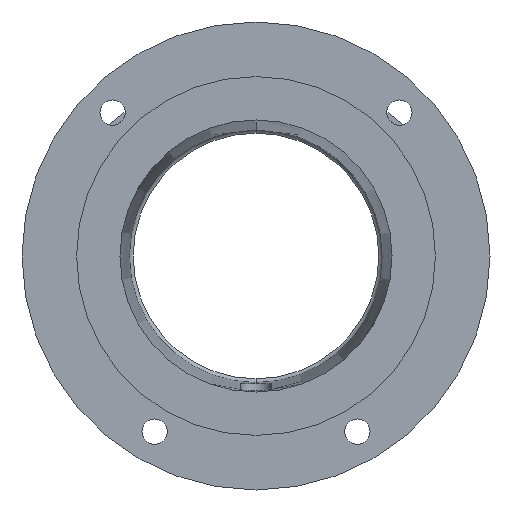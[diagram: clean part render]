
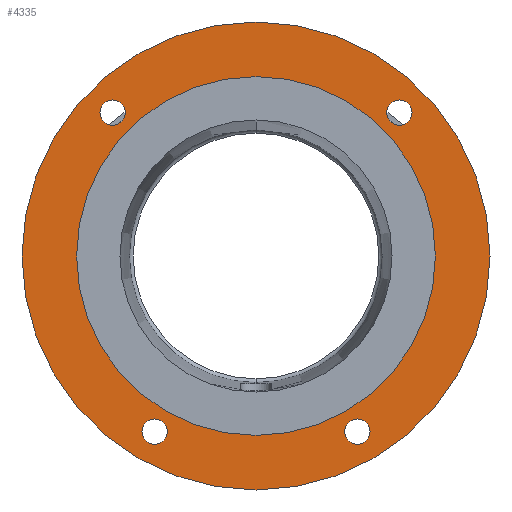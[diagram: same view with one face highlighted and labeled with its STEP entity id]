
A CAD part, front view. The second image highlights one B-rep face of the part: STEP entity #4335.
In plain terms, the highlighted planar face has unit normal (0, -1, 0).
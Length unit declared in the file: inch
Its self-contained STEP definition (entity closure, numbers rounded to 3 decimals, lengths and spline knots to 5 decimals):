
#64 = VERTEX_POINT ( 'NONE', #2327 ) ;
#112 = EDGE_LOOP ( 'NONE', ( #5559, #5375 ) ) ;
#201 = DIRECTION ( 'NONE',  ( 0., 0., -1. ) ) ;
#283 = CIRCLE ( 'NONE', #5240, 0.20312 ) ;
#293 = CARTESIAN_POINT ( 'NONE',  ( 1.625, 0., -2.81458 ) ) ;
#323 = DIRECTION ( 'NONE',  ( 0., 0., -1. ) ) ;
#339 = EDGE_LOOP ( 'NONE', ( #3786, #2260 ) ) ;
#596 = DIRECTION ( 'NONE',  ( 0., -1., 0. ) ) ;
#614 = DIRECTION ( 'NONE',  ( 0., 1., 0. ) ) ;
#680 = CARTESIAN_POINT ( 'NONE',  ( 1.625, 0., -2.61146 ) ) ;
#713 = CIRCLE ( 'NONE', #5966, 0.20313 ) ;
#859 = VERTEX_POINT ( 'NONE', #3801 ) ;
#911 = CIRCLE ( 'NONE', #4905, 0.20312 ) ;
#948 = FACE_BOUND ( 'NONE', #4601, .T. ) ;
#991 = DIRECTION ( 'NONE',  ( 0., -1., 0. ) ) ;
#1044 = AXIS2_PLACEMENT_3D ( 'NONE', #1739, #1344, #1766 ) ;
#1150 = CIRCLE ( 'NONE', #5967, 0.20312 ) ;
#1149 = CIRCLE ( 'NONE', #5656, 3.75 ) ;
#1165 = CARTESIAN_POINT ( 'NONE',  ( 0., 0., 2.875 ) ) ;
#1180 = ORIENTED_EDGE ( 'NONE', *, *, #2501, .F. ) ;
#1237 = CARTESIAN_POINT ( 'NONE',  ( -2.2981, 0., 2.50122 ) ) ;
#1344 = DIRECTION ( 'NONE',  ( 0., -1., 0. ) ) ;
#1487 = DIRECTION ( 'NONE',  ( 0., -1., 0. ) ) ;
#1551 = CARTESIAN_POINT ( 'NONE',  ( -2.19153, 0., 0. ) ) ;
#1700 = VERTEX_POINT ( 'NONE', #2333 ) ;
#1729 = CARTESIAN_POINT ( 'NONE',  ( 2.2981, 0., 2.2981 ) ) ;
#1739 = CARTESIAN_POINT ( 'NONE',  ( -1.625, 0., -2.81458 ) ) ;
#1766 = DIRECTION ( 'NONE',  ( 0., 0., -1. ) ) ;
#1801 = ORIENTED_EDGE ( 'NONE', *, *, #2074, .F. ) ;
#1928 = CARTESIAN_POINT ( 'NONE',  ( -2.2981, 0., 2.09497 ) ) ;
#1953 = ORIENTED_EDGE ( 'NONE', *, *, #4296, .F. ) ;
#1964 = CARTESIAN_POINT ( 'NONE',  ( -2.2981, 0., 2.2981 ) ) ;
#1999 = CARTESIAN_POINT ( 'NONE',  ( 0., 0., 0. ) ) ;
#2074 = EDGE_CURVE ( 'NONE', #4311, #64, #5094, .T. ) ;
#2105 = DIRECTION ( 'NONE',  ( 0., -1., 0. ) ) ;
#2110 = EDGE_CURVE ( 'NONE', #5845, #4874, #1150, .T. ) ;
#2140 = EDGE_CURVE ( 'NONE', #2693, #5842, #713, .T. ) ;
#2170 = EDGE_CURVE ( 'NONE', #4808, #5216, #4248, .T. ) ;
#2181 = ORIENTED_EDGE ( 'NONE', *, *, #2522, .T. ) ;
#2223 = DIRECTION ( 'NONE',  ( 0., 0., -1. ) ) ;
#2255 = CARTESIAN_POINT ( 'NONE',  ( 1.625, 0., -3.01771 ) ) ;
#2260 = ORIENTED_EDGE ( 'NONE', *, *, #2110, .F. ) ;
#2319 = EDGE_LOOP ( 'NONE', ( #1953, #1180 ) ) ;
#2327 = CARTESIAN_POINT ( 'NONE',  ( -1.625, 0., -3.01771 ) ) ;
#2333 = CARTESIAN_POINT ( 'NONE',  ( 0., 0., -2.875 ) ) ;
#2408 = DIRECTION ( 'NONE',  ( 0., 0., -1. ) ) ;
#2459 = DIRECTION ( 'NONE',  ( 0., 0., -1. ) ) ;
#2493 = DIRECTION ( 'NONE',  ( 0., 0., -1. ) ) ;
#2501 = EDGE_CURVE ( 'NONE', #3750, #1700, #4951, .T. ) ;
#2522 = EDGE_CURVE ( 'NONE', #859, #4605, #1149, .T. ) ;
#2693 = VERTEX_POINT ( 'NONE', #3582 ) ;
#2703 = CARTESIAN_POINT ( 'NONE',  ( 0., 0., 3.75 ) ) ;
#2874 = DIRECTION ( 'NONE',  ( 0., -1., 0. ) ) ;
#2911 = CARTESIAN_POINT ( 'NONE',  ( 2.2981, 0., 2.2981 ) ) ;
#3085 = ORIENTED_EDGE ( 'NONE', *, *, #4710, .F. ) ;
#3090 = DIRECTION ( 'NONE',  ( 0., -1., 0. ) ) ;
#3128 = EDGE_CURVE ( 'NONE', #5842, #2693, #5766, .T. ) ;
#3208 = DIRECTION ( 'NONE',  ( 0., -1., 0. ) ) ;
#3223 = CIRCLE ( 'NONE', #5212, 3.75 ) ;
#3300 = EDGE_CURVE ( 'NONE', #4874, #5845, #283, .T. ) ;
#3308 = EDGE_CURVE ( 'NONE', #5216, #4808, #3860, .T. ) ;
#3361 = FACE_BOUND ( 'NONE', #112, .T. ) ;
#3449 = CARTESIAN_POINT ( 'NONE',  ( 0., 0., 0. ) ) ;
#3466 = PLANE ( 'NONE',  #4938 ) ;
#3522 = CARTESIAN_POINT ( 'NONE',  ( 2.2981, 0., 2.09497 ) ) ;
#3565 = EDGE_CURVE ( 'NONE', #4605, #859, #3223, .T. ) ;
#3574 = FACE_OUTER_BOUND ( 'NONE', #5685, .T. ) ;
#3582 = CARTESIAN_POINT ( 'NONE',  ( 2.2981, 0., 2.50122 ) ) ;
#3750 = VERTEX_POINT ( 'NONE', #1165 ) ;
#3786 = ORIENTED_EDGE ( 'NONE', *, *, #3300, .F. ) ;
#3793 = CARTESIAN_POINT ( 'NONE',  ( 1.625, 0., -2.81458 ) ) ;
#3801 = CARTESIAN_POINT ( 'NONE',  ( 0., 0., -3.75 ) ) ;
#3839 = FACE_BOUND ( 'NONE', #2319, .T. ) ;
#3850 = DIRECTION ( 'NONE',  ( 0., 0., -1. ) ) ;
#3860 = CIRCLE ( 'NONE', #5230, 0.20312 ) ;
#3868 = DIRECTION ( 'NONE',  ( 0., 0., 1. ) ) ;
#4214 = DIRECTION ( 'NONE',  ( 0., 0., -1. ) ) ;
#4225 = CARTESIAN_POINT ( 'NONE',  ( 0., 0., 0. ) ) ;
#4248 = CIRCLE ( 'NONE', #5938, 0.20312 ) ;
#4296 = EDGE_CURVE ( 'NONE', #1700, #3750, #5986, .T. ) ;
#4311 = VERTEX_POINT ( 'NONE', #5191 ) ;
#4335 = ADVANCED_FACE ( 'NONE', ( #5677, #5832, #3361, #948, #3839, #3574 ), #3466, .F. ) ;
#4337 = ORIENTED_EDGE ( 'NONE', *, *, #3565, .T. ) ;
#4601 = EDGE_LOOP ( 'NONE', ( #5194, #4899 ) ) ;
#4605 = VERTEX_POINT ( 'NONE', #2703 ) ;
#4651 = DIRECTION ( 'NONE',  ( 0., 0., -1. ) ) ;
#4672 = DIRECTION ( 'NONE',  ( 0., 0., -1. ) ) ;
#4710 = EDGE_CURVE ( 'NONE', #64, #4311, #911, .T. ) ;
#4784 = CARTESIAN_POINT ( 'NONE',  ( 0., 0., 0. ) ) ;
#4808 = VERTEX_POINT ( 'NONE', #1237 ) ;
#4874 = VERTEX_POINT ( 'NONE', #2255 ) ;
#4892 = DIRECTION ( 'NONE',  ( 0., -1., 0. ) ) ;
#4899 = ORIENTED_EDGE ( 'NONE', *, *, #2170, .F. ) ;
#4905 = AXIS2_PLACEMENT_3D ( 'NONE', #5852, #3208, #323 ) ;
#4938 = AXIS2_PLACEMENT_3D ( 'NONE', #1551, #614, #3868 ) ;
#4951 = CIRCLE ( 'NONE', #5680, 2.875 ) ;
#5003 = AXIS2_PLACEMENT_3D ( 'NONE', #3449, #596, #3850 ) ;
#5094 = CIRCLE ( 'NONE', #1044, 0.20312 ) ;
#5114 = DIRECTION ( 'NONE',  ( 0., -1., 0. ) ) ;
#5142 = DIRECTION ( 'NONE',  ( 0., -1., 0. ) ) ;
#5191 = CARTESIAN_POINT ( 'NONE',  ( -1.625, 0., -2.61146 ) ) ;
#5194 = ORIENTED_EDGE ( 'NONE', *, *, #3308, .F. ) ;
#5212 = AXIS2_PLACEMENT_3D ( 'NONE', #4784, #2105, #5253 ) ;
#5216 = VERTEX_POINT ( 'NONE', #1928 ) ;
#5230 = AXIS2_PLACEMENT_3D ( 'NONE', #1964, #5114, #2459 ) ;
#5240 = AXIS2_PLACEMENT_3D ( 'NONE', #3793, #991, #4214 ) ;
#5253 = DIRECTION ( 'NONE',  ( 0., 0., -1. ) ) ;
#5310 = AXIS2_PLACEMENT_3D ( 'NONE', #1729, #4892, #2223 ) ;
#5375 = ORIENTED_EDGE ( 'NONE', *, *, #2140, .F. ) ;
#5559 = ORIENTED_EDGE ( 'NONE', *, *, #3128, .F. ) ;
#5656 = AXIS2_PLACEMENT_3D ( 'NONE', #1999, #5142, #2493 ) ;
#5677 = FACE_BOUND ( 'NONE', #5717, .T. ) ;
#5680 = AXIS2_PLACEMENT_3D ( 'NONE', #4225, #1487, #4672 ) ;
#5685 = EDGE_LOOP ( 'NONE', ( #2181, #4337 ) ) ;
#5717 = EDGE_LOOP ( 'NONE', ( #3085, #1801 ) ) ;
#5725 = CARTESIAN_POINT ( 'NONE',  ( -2.2981, 0., 2.2981 ) ) ;
#5766 = CIRCLE ( 'NONE', #5310, 0.20313 ) ;
#5832 = FACE_BOUND ( 'NONE', #339, .T. ) ;
#5842 = VERTEX_POINT ( 'NONE', #3522 ) ;
#5845 = VERTEX_POINT ( 'NONE', #680 ) ;
#5852 = CARTESIAN_POINT ( 'NONE',  ( -1.625, 0., -2.81458 ) ) ;
#5938 = AXIS2_PLACEMENT_3D ( 'NONE', #5725, #3090, #201 ) ;
#5966 = AXIS2_PLACEMENT_3D ( 'NONE', #2911, #2874, #2408 ) ;
#5967 = AXIS2_PLACEMENT_3D ( 'NONE', #293, #5993, #4651 ) ;
#5986 = CIRCLE ( 'NONE', #5003, 2.875 ) ;
#5993 = DIRECTION ( 'NONE',  ( 0., -1., 0. ) ) ;
